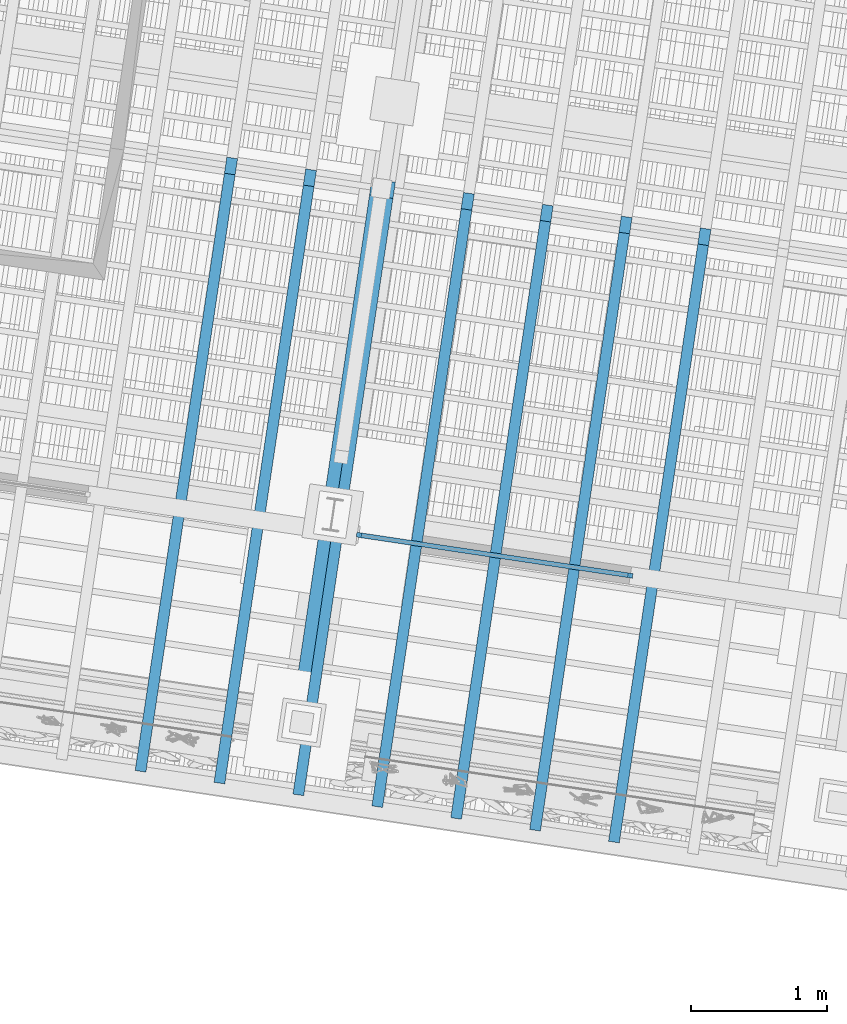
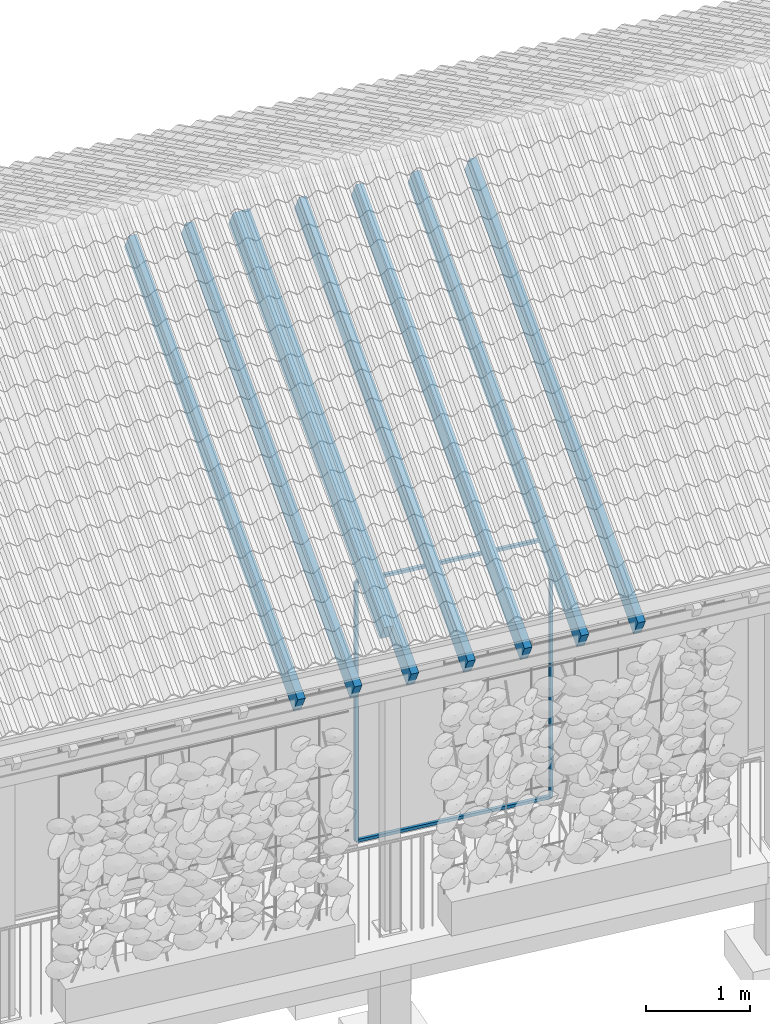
# One storey, part 92 of 131: 12 members, 1 element without a shape of its own.
"""IFC4 building model written with IfcOpenShell, lengths in metres."""

from ifc_helpers import new_model, si_unit, direction, frame, origin_with_axes, place, context, subcontext, project, spatial, rectangle, extrude, material, material_profile, profile_set, profile_usage, type_object, element, aggregate, save


model = new_model("IFC4")

# Units and contexts
model_context = context("Model", 3, precision=1e-05, world=origin_with_axes(), true_north=direction((0.0, 1.0)))
body_context = subcontext(model_context, "Body", "Model", "MODEL_VIEW")
ifc_project = project(units=[si_unit("VOLUMEUNIT", "CUBIC_METRE"), si_unit("LENGTHUNIT", "METRE"), si_unit("AREAUNIT", "SQUARE_METRE")], contexts=[model_context])

# Site, building, storey
site_placement = place(None, origin_with_axes())
site = spatial("IfcSite", under=ifc_project, at=site_placement, Name="Lares · Rua das Mercês · artigo 4771")
building_placement = place(site_placement, frame((15.0, 9.7, 14.65), z_axis=(0.0, 0.0, 1.0), x_axis=(0.989015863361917, -0.147809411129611, 0.0)))
building = spatial("IfcBuilding", under=site, at=building_placement, Name="Casa Sobreposta")
storey_placement = place(building_placement, origin_with_axes())
storey = spatial("IfcBuildingStorey", under=building, at=storey_placement, Name="00 · Habitação e estacionamento", Elevation=14.65)

# Members
ifc_material_1 = material(Name="Aço pintado / Stahl lackiert", Category="steel")
ifc_material_profile_1 = material_profile(ifc_material_1, rectangle(XDim=0.035, YDim=0.035))
ifc_profile_set_1 = profile_set([ifc_material_profile_1], Name="R0.035")
ifc_profile_usage_1 = profile_usage(ifc_profile_set_1)
member_type_1 = type_object("IfcMemberType", Name="R0.035 / steel", PredefinedType="NOTDEFINED", material=ifc_profile_set_1)
member_1_placement = place(storey_placement, frame((20.2133333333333, 0.0, 0.0), z_axis=(0.0, 0.0, 1.0), x_axis=(1.0, 0.0, 0.0)))
element("IfcMember", 1, at=member_1_placement, inside=storey, type_object=member_type_1, material=ifc_profile_usage_1, Name="Folha de correr sul 10 · montante", context=body_context, shape_type="SweptSolid", body=[
    extrude(rectangle(XDim=0.035, YDim=0.035), origin_with_axes(), (0.0, 0.0, 1.0), 3.05),
])
ifc_profile_usage_2 = profile_usage(ifc_profile_set_1)
member_2_placement = place(storey_placement, frame((22.2346666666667, 0.0, 0.0), z_axis=(0.0, 0.0, 1.0), x_axis=(1.0, 0.0, 0.0)))
element("IfcMember", 2, at=member_2_placement, inside=storey, type_object=member_type_1, material=ifc_profile_usage_2, Name="Folha de correr sul 10 · montante", context=body_context, shape_type="SweptSolid", body=[
    extrude(rectangle(XDim=0.035, YDim=0.035), origin_with_axes(), (0.0, 0.0, 1.0), 3.05),
])
ifc_profile_usage_3 = profile_usage(ifc_profile_set_1)
member_3_placement = place(storey_placement, frame((20.2133333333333, 0.0, 0.0), z_axis=(1.0, 0.0, 0.0), x_axis=(0.0, -1.0, 0.0)))
element("IfcMember", 3, at=member_3_placement, inside=storey, type_object=member_type_1, material=ifc_profile_usage_3, Name="Folha de correr sul 10 · travessa", context=body_context, shape_type="SweptSolid", body=[
    extrude(rectangle(XDim=0.035, YDim=0.035), origin_with_axes(), (0.0, 0.0, 1.0), 2.02133333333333),
])
ifc_profile_usage_4 = profile_usage(ifc_profile_set_1)
member_4_placement = place(storey_placement, frame((20.2133333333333, 0.0, 3.05), z_axis=(1.0, 0.0, 0.0), x_axis=(0.0, -1.0, 0.0)))
element("IfcMember", 4, at=member_4_placement, inside=storey, type_object=member_type_1, material=ifc_profile_usage_4, Name="Folha de correr sul 10 · travessa", context=body_context, shape_type="SweptSolid", body=[
    extrude(rectangle(XDim=0.035, YDim=0.035), origin_with_axes(), (0.0, 0.0, 1.0), 2.02133333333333),
])

# Roof, members
ifc_material_2 = material(Name="Madeira / Bauholz", Category="wood")
roof_placement = place(storey_placement, origin_with_axes())
roof = element("IfcRoof", 5, at=roof_placement, inside=storey, material=ifc_material_2, Name="Cobertura de telha · duas águas 30 graus", PredefinedType="GABLE_ROOF")
ifc_material_profile_2 = material_profile(ifc_material_2, rectangle(XDim=0.16, YDim=0.24))
ifc_profile_set_2 = profile_set([ifc_material_profile_2], Name="TIMBER0.160x0.240")
ifc_profile_usage_5 = profile_usage(ifc_profile_set_2)
member_type_2 = type_object("IfcMemberType", Name="TIMBER0.160x0.240 / timber", PredefinedType="NOTDEFINED", material=ifc_profile_set_2)
member_5_placement = place(roof_placement, frame((20.0, -1.43, 3.44635462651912), z_axis=(0.0, 0.866025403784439, 0.5), x_axis=(1.0, 0.0, 0.0)))
member_5 = element("IfcMember", 6, at=member_5_placement, type_object=member_type_2, material=ifc_profile_usage_5, Name="Tesoura · perna", context=body_context, shape_type="SweptSolid", body=[
    extrude(rectangle(XDim=0.16, YDim=0.24), origin_with_axes(), (0.0, 0.0, 1.0), 4.59570814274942),
])
ifc_material_profile_3 = material_profile(ifc_material_2, rectangle(XDim=0.08, YDim=0.24))
ifc_profile_set_3 = profile_set([ifc_material_profile_3], Name="TIMBER0.080x0.240")
ifc_profile_usage_6 = profile_usage(ifc_profile_set_3)
member_type_3 = type_object("IfcMemberType", Name="TIMBER0.080x0.240 / timber", PredefinedType="NOTDEFINED", material=ifc_profile_set_3)
member_6_placement = place(roof_placement, frame((18.8787878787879, -1.9, 3.181), z_axis=(0.0, 0.866025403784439, 0.5), x_axis=(1.0, 0.0, 0.0)))
member_6 = element("IfcMember", 7, at=member_6_placement, type_object=member_type_3, material=ifc_profile_usage_6, Name="Cobertura · caibro", context=body_context, shape_type="SweptSolid", body=[
    extrude(rectangle(XDim=0.08, YDim=0.24), origin_with_axes(), (0.0, 0.0, 1.0), 5.13841739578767),
])
ifc_profile_usage_7 = profile_usage(ifc_profile_set_3)
member_7_placement = place(roof_placement, frame((19.4666666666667, -1.9, 3.181), z_axis=(0.0, 0.866025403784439, 0.5), x_axis=(1.0, 0.0, 0.0)))
member_7 = element("IfcMember", 8, at=member_7_placement, type_object=member_type_3, material=ifc_profile_usage_7, Name="Cobertura · caibro", context=body_context, shape_type="SweptSolid", body=[
    extrude(rectangle(XDim=0.08, YDim=0.24), origin_with_axes(), (0.0, 0.0, 1.0), 5.13841739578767),
])
ifc_profile_usage_8 = profile_usage(ifc_profile_set_3)
member_8_placement = place(roof_placement, frame((20.0545454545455, -1.9, 3.181), z_axis=(0.0, 0.866025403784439, 0.5), x_axis=(1.0, 0.0, 0.0)))
member_8 = element("IfcMember", 9, at=member_8_placement, type_object=member_type_3, material=ifc_profile_usage_8, Name="Cobertura · caibro", context=body_context, shape_type="SweptSolid", body=[
    extrude(rectangle(XDim=0.08, YDim=0.24), origin_with_axes(), (0.0, 0.0, 1.0), 5.13841739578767),
])
ifc_profile_usage_9 = profile_usage(ifc_profile_set_3)
member_9_placement = place(roof_placement, frame((20.6424242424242, -1.9, 3.181), z_axis=(0.0, 0.866025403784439, 0.5), x_axis=(1.0, 0.0, 0.0)))
member_9 = element("IfcMember", 10, at=member_9_placement, type_object=member_type_3, material=ifc_profile_usage_9, Name="Cobertura · caibro", context=body_context, shape_type="SweptSolid", body=[
    extrude(rectangle(XDim=0.08, YDim=0.24), origin_with_axes(), (0.0, 0.0, 1.0), 5.13841739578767),
])
ifc_profile_usage_10 = profile_usage(ifc_profile_set_3)
member_10_placement = place(roof_placement, frame((21.230303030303, -1.9, 3.181), z_axis=(0.0, 0.866025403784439, 0.5), x_axis=(1.0, 0.0, 0.0)))
member_10 = element("IfcMember", 11, at=member_10_placement, type_object=member_type_3, material=ifc_profile_usage_10, Name="Cobertura · caibro", context=body_context, shape_type="SweptSolid", body=[
    extrude(rectangle(XDim=0.08, YDim=0.24), origin_with_axes(), (0.0, 0.0, 1.0), 5.13841739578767),
])
ifc_profile_usage_11 = profile_usage(ifc_profile_set_3)
member_11_placement = place(roof_placement, frame((21.8181818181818, -1.9, 3.181), z_axis=(0.0, 0.866025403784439, 0.5), x_axis=(1.0, 0.0, 0.0)))
member_11 = element("IfcMember", 12, at=member_11_placement, type_object=member_type_3, material=ifc_profile_usage_11, Name="Cobertura · caibro", context=body_context, shape_type="SweptSolid", body=[
    extrude(rectangle(XDim=0.08, YDim=0.24), origin_with_axes(), (0.0, 0.0, 1.0), 5.13841739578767),
])
ifc_profile_usage_12 = profile_usage(ifc_profile_set_3)
member_12_placement = place(roof_placement, frame((22.4060606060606, -1.9, 3.181), z_axis=(0.0, 0.866025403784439, 0.5), x_axis=(1.0, 0.0, 0.0)))
member_12 = element("IfcMember", 13, at=member_12_placement, type_object=member_type_3, material=ifc_profile_usage_12, Name="Cobertura · caibro", context=body_context, shape_type="SweptSolid", body=[
    extrude(rectangle(XDim=0.08, YDim=0.24), origin_with_axes(), (0.0, 0.0, 1.0), 5.13841739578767),
])
aggregate(roof, [member_5, member_6, member_7, member_8, member_9, member_10, member_11, member_12])

save(model, "model.ifc")
